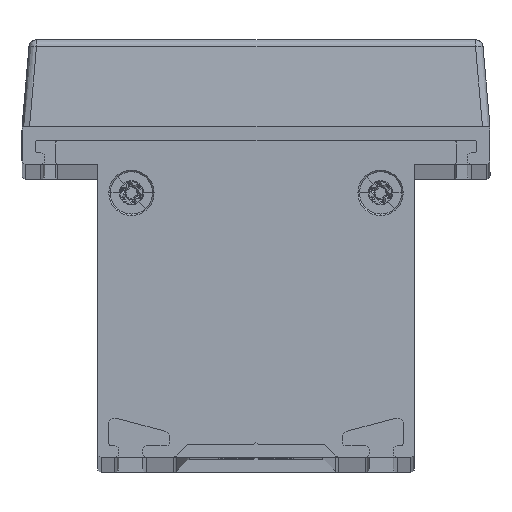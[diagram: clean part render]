
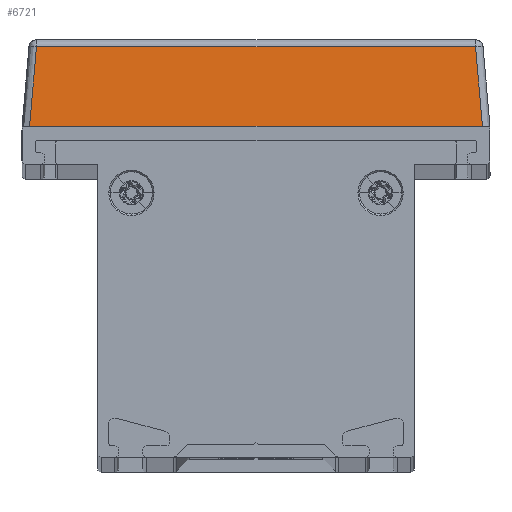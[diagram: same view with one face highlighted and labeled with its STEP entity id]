
A CAD part, top view. The second image highlights one B-rep face of the part: STEP entity #6721.
In plain terms, the highlighted planar face has unit normal (0, 0.087, 0.996) as drawn and (-0.996, 0.087, 0) by its records, which use the part's own axes.
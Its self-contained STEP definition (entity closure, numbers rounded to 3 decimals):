
#492 = CARTESIAN_POINT ( 'NONE',  ( -143.5, 0., 31. ) ) ;
#519 = DIRECTION ( 'NONE',  ( 0., 0., 1. ) ) ;
#577 = CARTESIAN_POINT ( 'NONE',  ( -143.5, 0., 30.004 ) ) ;
#602 = CARTESIAN_POINT ( 'NONE',  ( -143.5, 0., -30.004 ) ) ;
#972 = LINE ( 'NONE', #1212, #2448 ) ;
#1062 = AXIS2_PLACEMENT_3D ( 'NONE', #492, #1225, #6306 ) ;
#1212 = CARTESIAN_POINT ( 'NONE',  ( -143.5, 0., 31. ) ) ;
#1225 = DIRECTION ( 'NONE',  ( -0.996, 0.087, 0. ) ) ;
#1869 = DIRECTION ( 'NONE',  ( 0.087, 0.992, -0.087 ) ) ;
#1916 = ORIENTED_EDGE ( 'NONE', *, *, #4057, .T. ) ;
#2448 = VECTOR ( 'NONE', #519, 1000. ) ;
#2765 = CARTESIAN_POINT ( 'NONE',  ( -143.508, -0.086, 30.011 ) ) ;
#3037 = VERTEX_POINT ( 'NONE', #9152 ) ;
#3320 = VECTOR ( 'NONE', #1869, 1000. ) ;
#4057 = EDGE_CURVE ( 'NONE', #8409, #3037, #9075, .T. ) ;
#4113 = VECTOR ( 'NONE', #4982, 1000. ) ;
#4379 = EDGE_CURVE ( 'NONE', #3037, #6120, #7950, .T. ) ;
#4624 = ORIENTED_EDGE ( 'NONE', *, *, #5713, .T. ) ;
#4843 = PLANE ( 'NONE',  #1062 ) ;
#4982 = DIRECTION ( 'NONE',  ( 0., 0., -1. ) ) ;
#5470 = CARTESIAN_POINT ( 'NONE',  ( -142.574, 10.587, -29.994 ) ) ;
#5713 = EDGE_CURVE ( 'NONE', #6120, #8575, #5959, .T. ) ;
#5746 = DIRECTION ( 'NONE',  ( -0.087, -0.992, -0.087 ) ) ;
#5772 = CARTESIAN_POINT ( 'NONE',  ( -143.04, 5.257, -29.544 ) ) ;
#5868 = EDGE_CURVE ( 'NONE', #8575, #8409, #972, .T. ) ;
#5959 = LINE ( 'NONE', #5772, #8105 ) ;
#6120 = VERTEX_POINT ( 'NONE', #7553 ) ;
#6306 = DIRECTION ( 'NONE',  ( -0.087, -0.996, 0. ) ) ;
#6619 = FACE_OUTER_BOUND ( 'NONE', #8960, .T. ) ;
#6721 = ADVANCED_FACE ( 'NONE', ( #6619 ), #4843, .T. ) ;
#7553 = CARTESIAN_POINT ( 'NONE',  ( -142.574, 10.587, -29.078 ) ) ;
#7950 = LINE ( 'NONE', #5470, #4113 ) ;
#8105 = VECTOR ( 'NONE', #5746, 1000. ) ;
#8409 = VERTEX_POINT ( 'NONE', #577 ) ;
#8445 = ORIENTED_EDGE ( 'NONE', *, *, #4379, .T. ) ;
#8575 = VERTEX_POINT ( 'NONE', #602 ) ;
#8597 = ORIENTED_EDGE ( 'NONE', *, *, #5868, .T. ) ;
#8960 = EDGE_LOOP ( 'NONE', ( #8597, #1916, #8445, #4624 ) ) ;
#9075 = LINE ( 'NONE', #2765, #3320 ) ;
#9152 = CARTESIAN_POINT ( 'NONE',  ( -142.574, 10.587, 29.078 ) ) ;
